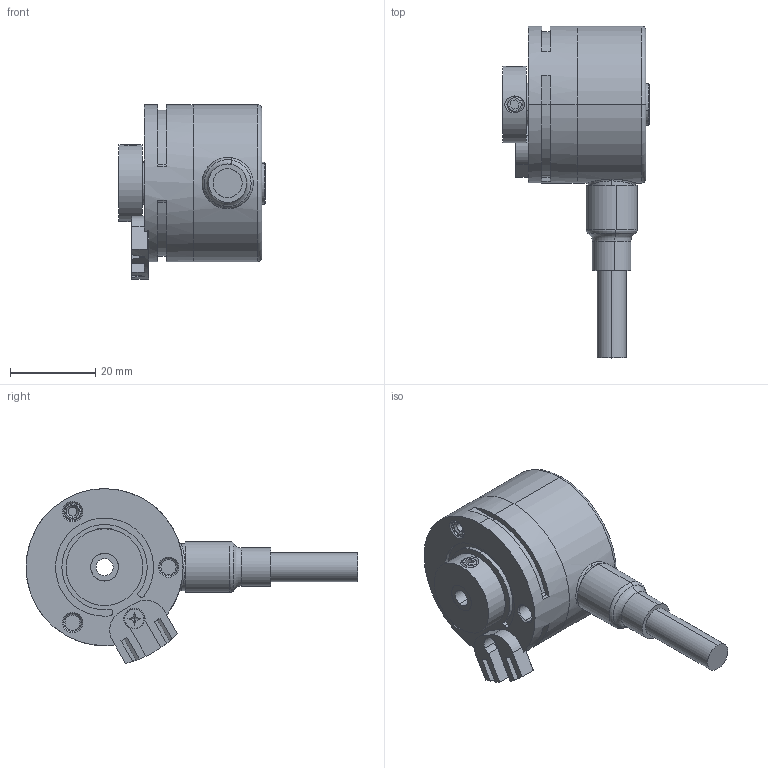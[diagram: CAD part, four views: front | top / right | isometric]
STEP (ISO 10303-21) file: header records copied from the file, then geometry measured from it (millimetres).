
FILE_DESCRIPTION (( 'STEP AP214' ), '1' );
FILE_NAME ('3720.11X1.XXXX.STEP', '2008-11-27T10:35:32', ( 'admin' ), ( 'Fritz Kübler GmbH' ), 'SwSTEP 2.0', 'SolidWorks 2008', '' );
FILE_SCHEMA (( 'AUTOMOTIVE_DESIGN' ));
Length unit declared in the file: millimetre
Products named in the file (1): 3720.11X1.XXXX
Bounding box: 34.3 x 77.8 x 40.95 mm (x, y, z)
Volume: 16942.2 mm3; surface area: 18973.6 mm2
Topology: 12 solids, 12 shells, 769 faces, 1886 edges, 1165 vertices
Faces by surface type: cylinder 283, plane 234, torus 90, bspline 77, cone 60, sphere 25
Entity records: 33982 total; most frequent: CARTESIAN_POINT 7800, DIRECTION 3776, ORIENTED_EDGE 3726, EDGE_CURVE 1863, AXIS2_PLACEMENT_3D 1555, VERTEX_POINT 1155, CIRCLE 862, EDGE_LOOP 828
